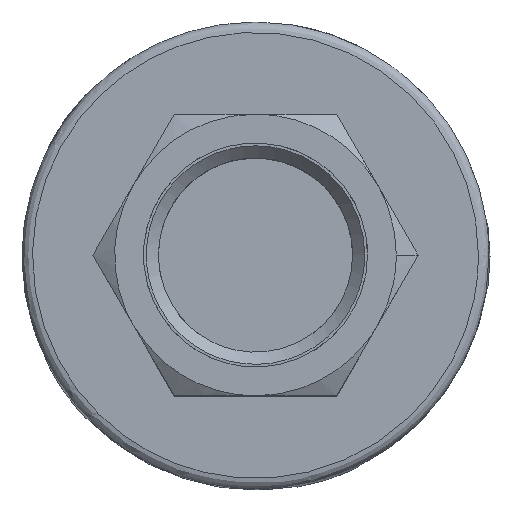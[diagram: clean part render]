
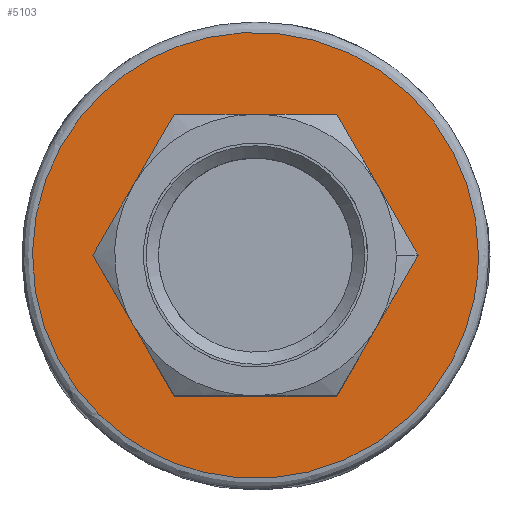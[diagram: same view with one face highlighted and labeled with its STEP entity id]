
A CAD part, top view. The second image highlights one B-rep face of the part: STEP entity #5103.
In plain terms, the highlighted free-form (B-spline) face has degree [1, 1] with [2, 2] control points.
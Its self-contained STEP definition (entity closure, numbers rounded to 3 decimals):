
#545=CARTESIAN_POINT('V145',(-7.8,-13.51,
   58.5));
#546=VERTEX_POINT('V145',#545);
#552=CARTESIAN_POINT('V143',(7.8,-13.51,
   58.5));
#553=VERTEX_POINT('V143',#552);
#554=CARTESIAN_POINT('E229',(7.8,-13.51,
   58.5));
#555=CARTESIAN_POINT('E229',(-7.8,-13.51,
   58.5));
#556=QUASI_UNIFORM_CURVE('E229',1,(#554,#555),.POLYLINE_FORM.,.F.,
   .U.);
#557=EDGE_CURVE('E229',#553,#546,#556,.T.);
#628=CARTESIAN_POINT('V146',(-15.6,0.,
   58.5));
#629=VERTEX_POINT('V146',#628);
#635=CARTESIAN_POINT('E231',(-7.8,-13.51,
   58.5));
#636=CARTESIAN_POINT('E231',(-15.6,0.,
   58.5));
#637=QUASI_UNIFORM_CURVE('E231',1,(#635,#636),.POLYLINE_FORM.,.F.,
   .U.);
#638=EDGE_CURVE('E231',#546,#629,#637,.T.);
#705=CARTESIAN_POINT('V147',(-7.8,13.51,
   58.5));
#706=VERTEX_POINT('V147',#705);
#712=CARTESIAN_POINT('E233',(-15.6,0.,
   58.5));
#713=CARTESIAN_POINT('E233',(-7.8,13.51,
   58.5));
#714=QUASI_UNIFORM_CURVE('E233',1,(#712,#713),.POLYLINE_FORM.,.F.,
   .U.);
#715=EDGE_CURVE('E233',#629,#706,#714,.T.);
#782=CARTESIAN_POINT('V148',(7.8,13.51,
   58.5));
#783=VERTEX_POINT('V148',#782);
#789=CARTESIAN_POINT('E235',(-7.8,13.51,
   58.5));
#790=CARTESIAN_POINT('E235',(7.8,13.51,
   58.5));
#791=QUASI_UNIFORM_CURVE('E235',1,(#789,#790),.POLYLINE_FORM.,.F.,
   .U.);
#792=EDGE_CURVE('E235',#706,#783,#791,.T.);
#859=CARTESIAN_POINT('V144',(15.6,0.,
   58.5));
#860=VERTEX_POINT('V144',#859);
#866=CARTESIAN_POINT('E236',(7.8,13.51,
   58.5));
#867=CARTESIAN_POINT('E236',(15.6,0.,
   58.5));
#868=QUASI_UNIFORM_CURVE('E236',1,(#866,#867),.POLYLINE_FORM.,.F.,
   .U.);
#869=EDGE_CURVE('E236',#783,#860,#868,.T.);
#955=CARTESIAN_POINT('E226',(15.6,0.,
   58.5));
#956=CARTESIAN_POINT('E226',(7.8,-13.51,
   58.5));
#957=QUASI_UNIFORM_CURVE('E226',1,(#955,#956),.POLYLINE_FORM.,.F.,
   .U.);
#958=EDGE_CURVE('E226',#860,#553,#957,.T.);
#5050=CARTESIAN_POINT('V8',(21.394,0.,
   58.5));
#5051=VERTEX_POINT('V8',#5050);
#5065=CARTESIAN_POINT('E14',(21.394,0.,
   58.5));
#5066=CARTESIAN_POINT('E14',(21.394,37.056,
   58.5));
#5067=CARTESIAN_POINT('E14',(-10.697,18.528,
   58.5));
#5068=CARTESIAN_POINT('E14',(-42.789,0.,
   58.5));
#5069=CARTESIAN_POINT('E14',(-10.697,-18.528,
   58.5));
#5070=CARTESIAN_POINT('E14',(21.394,-37.056,
   58.5));
#5071=CARTESIAN_POINT('E14',(21.394,0.,
   58.5));
#5079=(BOUNDED_CURVE()B_SPLINE_CURVE(2,(#5065,#5066,#5067,#5068,
   #5069,#5070,#5071),.CIRCULAR_ARC.,.T.,.U.)
   B_SPLINE_CURVE_WITH_KNOTS((3,2,2,3),(2.0,28.816,
   55.632,82.448),.UNSPECIFIED.)CURVE()
   GEOMETRIC_REPRESENTATION_ITEM()RATIONAL_B_SPLINE_CURVE((1.0,
   0.5,1.0,0.5,1.0,0.5,1.0)
   )REPRESENTATION_ITEM('E14'));
#5080=EDGE_CURVE('E14',#5051,#5051,#5079,.T.);
#5087=CARTESIAN_POINT('F96',(-24.75,-24.75,
   58.5));
#5088=CARTESIAN_POINT('F96',(24.75,-24.75,
   58.5));
#5089=CARTESIAN_POINT('F96',(-24.75,24.75,
   58.5));
#5090=CARTESIAN_POINT('F96',(24.75,24.75,
   58.5));
#5091=QUASI_UNIFORM_SURFACE('F96',1,1,((#5087,#5089),(#5088,#5090))
,.PLANE_SURF.,.F.,.F.,.U.);
#5092=ORIENTED_EDGE('E14',*,*,#5080,.T.);
#5093=EDGE_LOOP('F96',(#5092));
#5094=FACE_OUTER_BOUND('F96',#5093,.T.);
#5095=ORIENTED_EDGE('E226',*,*,#958,.T.);
#5096=ORIENTED_EDGE('E229',*,*,#557,.T.);
#5097=ORIENTED_EDGE('E231',*,*,#638,.T.);
#5098=ORIENTED_EDGE('E233',*,*,#715,.T.);
#5099=ORIENTED_EDGE('E235',*,*,#792,.T.);
#5100=ORIENTED_EDGE('E236',*,*,#869,.T.);
#5101=EDGE_LOOP('F96',(#5095,#5096,#5097,#5098,#5099,#5100));
#5102=FACE_BOUND('F96',#5101,.T.);
#5103=ADVANCED_FACE('F96',(#5094,#5102),#5091,.T.);
